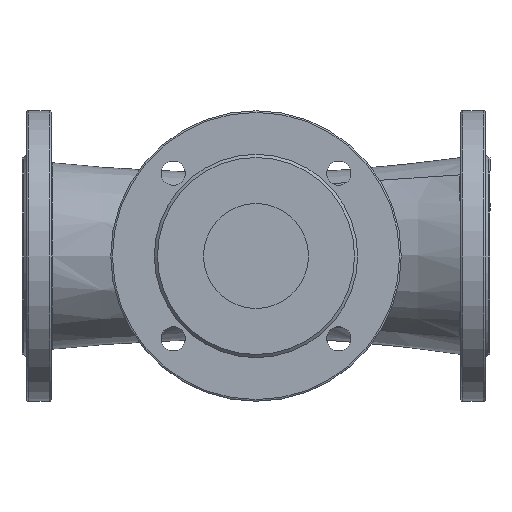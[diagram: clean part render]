
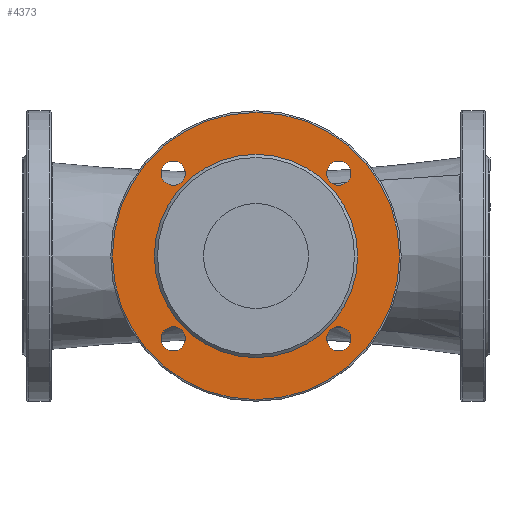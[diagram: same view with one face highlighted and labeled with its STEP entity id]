
A CAD part, front view. The second image highlights one B-rep face of the part: STEP entity #4373.
In plain terms, the highlighted planar face has unit normal (0, -1, 0).
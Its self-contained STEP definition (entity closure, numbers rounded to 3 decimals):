
#782=FACE_BOUND('',#1529,.T.);
#783=FACE_BOUND('',#1530,.T.);
#784=FACE_BOUND('',#1531,.T.);
#785=FACE_BOUND('',#1532,.T.);
#786=FACE_BOUND('',#1533,.T.);
#1117=FACE_OUTER_BOUND('',#1528,.T.);
#1528=EDGE_LOOP('',(#3629));
#1529=EDGE_LOOP('',(#3630));
#1530=EDGE_LOOP('',(#3631));
#1531=EDGE_LOOP('',(#3632));
#1532=EDGE_LOOP('',(#3633));
#1533=EDGE_LOOP('',(#3634));
#1822=CIRCLE('',#4798,7.5);
#1824=CIRCLE('',#4801,7.5);
#1826=CIRCLE('',#4804,7.5);
#1828=CIRCLE('',#4807,7.5);
#1858=CIRCLE('',#4858,63.);
#1859=CIRCLE('',#4860,89.);
#2157=VERTEX_POINT('',#7342);
#2159=VERTEX_POINT('',#7347);
#2161=VERTEX_POINT('',#7352);
#2163=VERTEX_POINT('',#7357);
#2208=VERTEX_POINT('',#8656);
#2209=VERTEX_POINT('',#8659);
#2660=EDGE_CURVE('',#2157,#2157,#1822,.T.);
#2662=EDGE_CURVE('',#2159,#2159,#1824,.T.);
#2664=EDGE_CURVE('',#2161,#2161,#1826,.T.);
#2666=EDGE_CURVE('',#2163,#2163,#1828,.T.);
#2716=EDGE_CURVE('',#2208,#2208,#1858,.T.);
#2717=EDGE_CURVE('',#2209,#2209,#1859,.T.);
#3629=ORIENTED_EDGE('',*,*,#2717,.F.);
#3630=ORIENTED_EDGE('',*,*,#2660,.T.);
#3631=ORIENTED_EDGE('',*,*,#2662,.T.);
#3632=ORIENTED_EDGE('',*,*,#2664,.T.);
#3633=ORIENTED_EDGE('',*,*,#2666,.T.);
#3634=ORIENTED_EDGE('',*,*,#2716,.F.);
#4118=PLANE('',#4859);
#4373=ADVANCED_FACE('',(#1117,#782,#783,#784,#785,#786),#4118,.T.);
#4798=AXIS2_PLACEMENT_3D('',#7343,#5810,#5811);
#4801=AXIS2_PLACEMENT_3D('',#7348,#5816,#5817);
#4804=AXIS2_PLACEMENT_3D('',#7353,#5822,#5823);
#4807=AXIS2_PLACEMENT_3D('',#7358,#5828,#5829);
#4858=AXIS2_PLACEMENT_3D('',#8657,#5931,#5932);
#4859=AXIS2_PLACEMENT_3D('',#8658,#5933,#5934);
#4860=AXIS2_PLACEMENT_3D('',#8660,#5935,#5936);
#5810=DIRECTION('center_axis',(0.,1.,0.));
#5811=DIRECTION('ref_axis',(-0.581,0.,0.814));
#5816=DIRECTION('center_axis',(0.,1.,0.));
#5817=DIRECTION('ref_axis',(-0.814,0.,-0.581));
#5822=DIRECTION('center_axis',(0.,1.,0.));
#5823=DIRECTION('ref_axis',(0.581,0.,-0.814));
#5828=DIRECTION('center_axis',(0.,1.,0.));
#5829=DIRECTION('ref_axis',(0.814,0.,0.581));
#5931=DIRECTION('center_axis',(0.,-1.,0.));
#5932=DIRECTION('ref_axis',(0.814,0.,-0.581));
#5933=DIRECTION('center_axis',(0.,-1.,0.));
#5934=DIRECTION('ref_axis',(0.,0.,-1.));
#5935=DIRECTION('center_axis',(0.,1.,0.));
#5936=DIRECTION('ref_axis',(0.,0.,-1.));
#7342=CARTESIAN_POINT('',(2148.742,1316.525,868.765));
#7343=CARTESIAN_POINT('Origin',(2148.742,1316.525,861.265));
#7347=CARTESIAN_POINT('',(2141.242,1316.525,758.735));
#7348=CARTESIAN_POINT('Origin',(2148.742,1316.525,758.735));
#7352=CARTESIAN_POINT('',(2251.273,1316.525,751.235));
#7353=CARTESIAN_POINT('Origin',(2251.273,1316.525,758.735));
#7357=CARTESIAN_POINT('',(2258.773,1316.525,861.265));
#7358=CARTESIAN_POINT('Origin',(2251.273,1316.525,861.265));
#8656=CARTESIAN_POINT('',(2263.008,1316.525,810.));
#8657=CARTESIAN_POINT('Origin',(2200.008,1316.525,810.));
#8658=CARTESIAN_POINT('Origin',(2111.008,1316.525,810.));
#8659=CARTESIAN_POINT('',(2289.008,1316.525,810.));
#8660=CARTESIAN_POINT('Origin',(2200.008,1316.525,810.));
